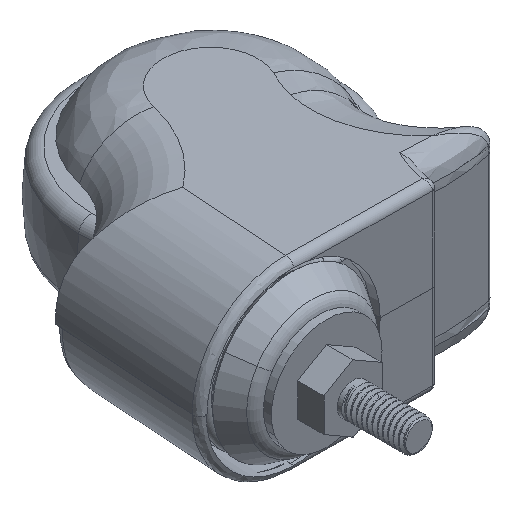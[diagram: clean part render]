
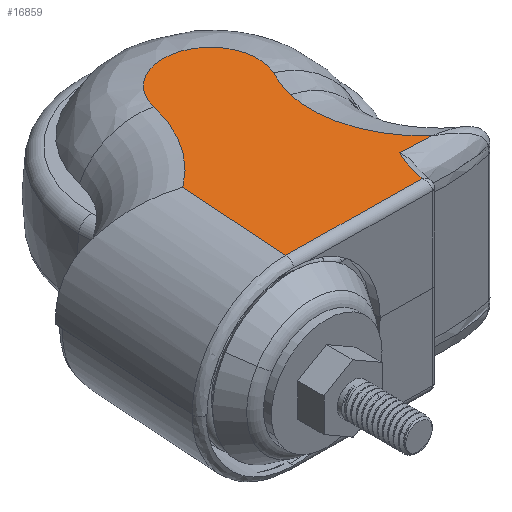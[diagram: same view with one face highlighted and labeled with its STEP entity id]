
A CAD part, isometric view. The second image highlights one B-rep face of the part: STEP entity #16859.
In plain terms, the highlighted planar face has unit normal (0, 0, 1) as drawn and (0, 0, -1) by its records, which use the part's own axes.
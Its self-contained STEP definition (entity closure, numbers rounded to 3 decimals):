
#14800=CARTESIAN_POINT('',(20.616,73.271,
-35.));
#15231=CARTESIAN_POINT('',(74.887,57.559,-35.));
#15232=CARTESIAN_POINT('',(76.187,57.629,-35.));
#15233=CARTESIAN_POINT('',(78.784,57.699,
-35.));
#15234=CARTESIAN_POINT('',(82.69,57.597,
-35.));
#15235=CARTESIAN_POINT('',(85.271,57.391,
-35.));
#15236=CARTESIAN_POINT('',(86.558,57.254,
-35.));
#15247=CARTESIAN_POINT('',(116.407,74.804,-35.));
#15248=DIRECTION('',(0.,0.,-1.));
#15249=DIRECTION('',(-0.924,-0.384,0.));
#15250=AXIS2_PLACEMENT_3D('',#15247,#15248,#15249);
#15252=DIRECTION('',(-0.998,0.056,0.));
#15253=VECTOR('',#15252,51.125);
#15254=CARTESIAN_POINT('',(71.662,70.417,-35.));
#15255=LINE('',#15254,#15253);
#15256=DIRECTION('',(0.,1.,0.));
#15257=VECTOR('',#15256,41.99);
#15258=CARTESIAN_POINT('',(20.616,31.281,-35.));
#15259=LINE('',#15258,#15257);
#15260=CARTESIAN_POINT('',(-14.901,-10.713,-35.));
#15261=DIRECTION('',(0.,0.,1.));
#15262=DIRECTION('',(0.988,0.157,0.));
#15263=AXIS2_PLACEMENT_3D('',#15260,#15261,#15262);
#15265=CARTESIAN_POINT('',(57.195,0.743,-35.));
#15266=DIRECTION('',(0.,0.,-1.));
#15267=DIRECTION('',(0.934,0.358,0.));
#15268=AXIS2_PLACEMENT_3D('',#15265,#15266,#15267);
#15270=CARTESIAN_POINT('',(70.616,17.966,-35.));
#15271=CARTESIAN_POINT('',(70.668,17.613,-35.));
#15272=CARTESIAN_POINT('',(70.796,16.871,-35.));
#15273=CARTESIAN_POINT('',(71.063,15.664,-35.));
#15274=CARTESIAN_POINT('',(71.426,14.315,-35.));
#15275=CARTESIAN_POINT('',(71.905,12.794,-35.));
#15276=CARTESIAN_POINT('',(72.503,11.102,-35.));
#15277=CARTESIAN_POINT('',(73.212,9.24,-35.));
#15278=CARTESIAN_POINT('',(73.73,7.895,-35.));
#15279=CARTESIAN_POINT('',(73.999,7.194,-35.));
#15281=CARTESIAN_POINT('',(86.558,57.254,
-35.));
#15282=CARTESIAN_POINT('',(86.073,56.861,
-35.));
#15283=CARTESIAN_POINT('',(85.109,56.045,
-35.));
#15284=CARTESIAN_POINT('',(83.672,54.726,
-35.));
#15285=CARTESIAN_POINT('',(82.283,53.336,
-35.));
#15286=CARTESIAN_POINT('',(80.967,51.904,
-35.));
#15287=CARTESIAN_POINT('',(79.723,50.427,
-35.));
#15288=CARTESIAN_POINT('',(78.552,48.91,
-35.));
#15289=CARTESIAN_POINT('',(77.454,47.354,
-35.));
#15290=CARTESIAN_POINT('',(76.431,45.764,
-35.));
#15291=CARTESIAN_POINT('',(75.484,44.143,-35.));
#15292=CARTESIAN_POINT('',(74.613,42.492,-35.));
#15293=CARTESIAN_POINT('',(73.819,40.814,-35.));
#15294=CARTESIAN_POINT('',(73.101,39.113,-35.));
#15295=CARTESIAN_POINT('',(72.462,37.391,-35.));
#15296=CARTESIAN_POINT('',(71.9,35.65,
-35.));
#15297=CARTESIAN_POINT('',(71.417,33.896,
-35.));
#15298=CARTESIAN_POINT('',(71.013,32.129,
-35.));
#15299=CARTESIAN_POINT('',(70.687,30.354,
-35.));
#15300=CARTESIAN_POINT('',(70.441,28.574,
-35.));
#15301=CARTESIAN_POINT('',(70.273,26.792,
-35.));
#15302=CARTESIAN_POINT('',(70.183,25.013,
-35.));
#15303=CARTESIAN_POINT('',(70.172,23.236,
-35.));
#15304=CARTESIAN_POINT('',(70.239,21.466,
-35.));
#15305=CARTESIAN_POINT('',(70.383,19.707,-35.));
#15306=CARTESIAN_POINT('',(70.53,18.544,
-35.));
#15307=CARTESIAN_POINT('',(70.616,17.966,-35.));
#15325=CARTESIAN_POINT('',(20.616,31.281,-35.));
#15971=CARTESIAN_POINT('',(73.999,7.194,-35.));
#15972=CARTESIAN_POINT('',(39.418,-2.082,-35.));
#15973=VERTEX_POINT('',#15971);
#15974=VERTEX_POINT('',#15972);
#15975=VERTEX_POINT('',#15270);
#15976=VERTEX_POINT('',#15281);
#15986=VERTEX_POINT('',#15325);
#16013=CARTESIAN_POINT('',(74.887,57.559,-35.));
#16014=CARTESIAN_POINT('',(71.662,70.418,-35.));
#16015=VERTEX_POINT('',#16013);
#16016=VERTEX_POINT('',#16014);
#16017=VERTEX_POINT('',#14800);
#16840=CARTESIAN_POINT('',(0.,0.,-35.));
#16841=DIRECTION('',(0.,0.,1.));
#16842=DIRECTION('',(1.,0.,0.));
#16843=AXIS2_PLACEMENT_3D('',#16840,#16841,#16842);
#16844=PLANE('',#16843);
#16845=ORIENTED_EDGE('',*,*,#16834,.T.);
#16846=ORIENTED_EDGE('',*,*,#16585,.T.);
#16847=ORIENTED_EDGE('',*,*,#16283,.F.);
#16849=ORIENTED_EDGE('',*,*,#16848,.F.);
#16851=ORIENTED_EDGE('',*,*,#16850,.F.);
#16853=ORIENTED_EDGE('',*,*,#16852,.F.);
#16855=ORIENTED_EDGE('',*,*,#16854,.F.);
#16856=ORIENTED_EDGE('',*,*,#16819,.F.);
#16857=EDGE_LOOP('',(#16845,#16846,#16847,#16849,#16851,#16853,#16855,#16856));
#16858=FACE_OUTER_BOUND('',#16857,.F.);
#15237=B_SPLINE_CURVE_WITH_KNOTS('',3,(#15231,#15232,#15233,#15234,#15235,
#15236),.UNSPECIFIED.,.F.,.F.,(4,1,1,4),(0.,0.333,
0.667,1.),.UNSPECIFIED.);
#15251=CIRCLE('',#15250,44.959);
#15264=CIRCLE('',#15263,55.);
#15269=CIRCLE('',#15268,18.);
#15280=B_SPLINE_CURVE_WITH_KNOTS('',3,(#15270,#15271,#15272,#15273,#15274,
#15275,#15276,#15277,#15278,#15279),.UNSPECIFIED.,.F.,.F.,(4,1,1,1,1,1,1,4),(
0.,0.143,0.286,0.429,0.571,
0.714,0.857,1.),.UNSPECIFIED.);
#15308=B_SPLINE_CURVE_WITH_KNOTS('',3,(#15281,#15282,#15283,#15284,#15285,
#15286,#15287,#15288,#15289,#15290,#15291,#15292,#15293,#15294,#15295,#15296,
#15297,#15298,#15299,#15300,#15301,#15302,#15303,#15304,#15305,#15306,#15307),
.UNSPECIFIED.,.F.,.F.,(4,1,1,1,1,1,1,1,1,1,1,1,1,1,1,1,1,1,1,1,1,1,1,1,4),(0.,
0.042,0.083,0.125,0.167,0.208,
0.25,0.292,0.333,0.375,0.417,
0.458,0.5,0.542,0.583,0.625,
0.667,0.708,0.75,0.792,0.833,
0.875,0.917,0.958,1.),.UNSPECIFIED.);
#16283=EDGE_CURVE('',#15986,#16017,#15259,.T.);
#16585=EDGE_CURVE('',#16016,#16017,#15255,.T.);
#16819=EDGE_CURVE('',#16015,#15976,#15237,.T.);
#16834=EDGE_CURVE('',#16015,#16016,#15251,.T.);
#16848=EDGE_CURVE('',#15974,#15986,#15264,.T.);
#16850=EDGE_CURVE('',#15973,#15974,#15269,.T.);
#16852=EDGE_CURVE('',#15975,#15973,#15280,.T.);
#16854=EDGE_CURVE('',#15976,#15975,#15308,.T.);
#16859=ADVANCED_FACE('',(#16858),#16844,.F.);
